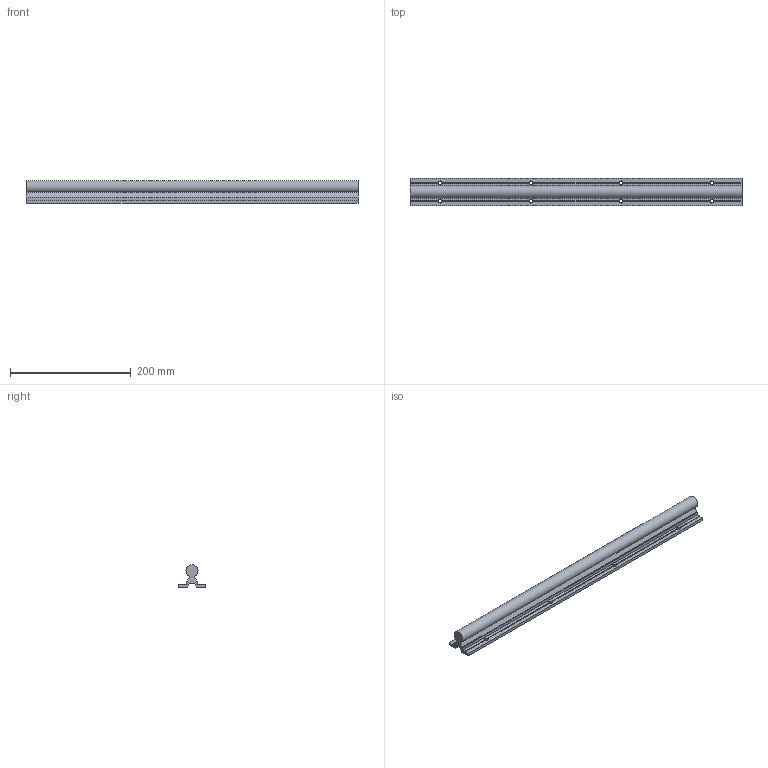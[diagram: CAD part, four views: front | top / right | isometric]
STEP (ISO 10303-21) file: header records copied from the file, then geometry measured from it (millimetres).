
FILE_DESCRIPTION(/* description */ (''),/* implementation_level */ '2;1');
FILE_NAME(/* name */ 'C:\Users\David\Desktop\stepFiles\Profilfuehrung\LFS20x550.stp',/* time_stamp */ '2018-06-24T15:21:53+02:00',/* author */ ('Buskamp'),/* organization */ (''),/* preprocessor_version */ 'ST-DEVELOPER v17',/* originating_system */ 'Autodesk Inventor 2019',/* authorisation */ '');
FILE_SCHEMA (('AUTOMOTIVE_DESIGN { 1 0 10303 214 3 1 1 }'));
Length unit declared in the file: millimetre
Products named in the file (1): Linearführung D20xvariabel
Bounding box: 550 x 45 x 37 mm (x, y, z)
Volume: 355273.4 mm3; surface area: 98404.8 mm2
Topology: 1 solids, 1 shells, 74 faces, 216 edges, 136 vertices
Faces by surface type: plane 49, cone 16, cylinder 9
Full cylindrical faces by diameter (mm): 5.5 x8
Entity records: 2481 total; most frequent: CARTESIAN_POINT 491, ORIENTED_EDGE 432, DIRECTION 408, EDGE_CURVE 216, AXIS2_PLACEMENT_3D 149, VERTEX_POINT 136, LINE 110, VECTOR 110
